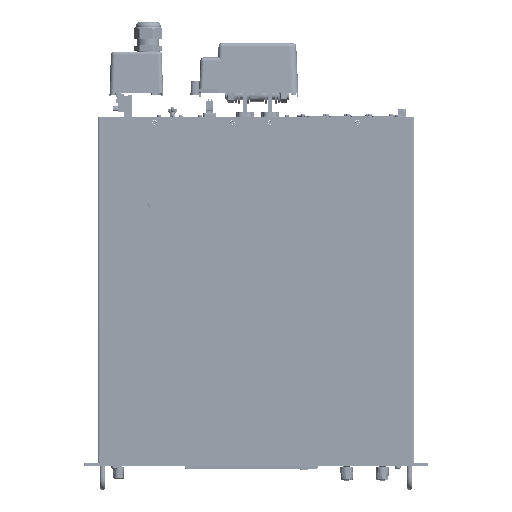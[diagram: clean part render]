
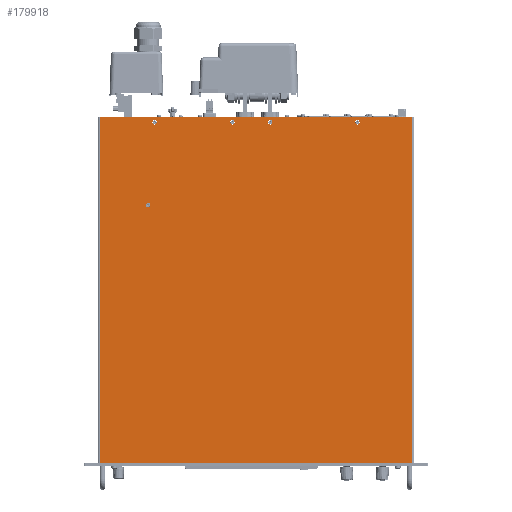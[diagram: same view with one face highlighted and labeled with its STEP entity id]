
A CAD part, top view. The second image highlights one B-rep face of the part: STEP entity #179918.
In plain terms, the highlighted planar face has unit normal (0, 0, 1).
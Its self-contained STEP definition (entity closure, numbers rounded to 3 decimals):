
#7609=FACE_BOUND('',#56152,.T.);
#7610=FACE_BOUND('',#56153,.T.);
#7611=FACE_BOUND('',#56154,.T.);
#7612=FACE_BOUND('',#56155,.T.);
#7613=FACE_BOUND('',#56156,.T.);
#9587=LINE('',#254500,#27041);
#9613=LINE('',#254619,#27067);
#13627=LINE('',#275898,#31081);
#13628=LINE('',#275901,#31082);
#13629=LINE('',#275903,#31083);
#13630=LINE('',#275904,#31084);
#13631=LINE('',#275906,#31085);
#13632=LINE('',#275907,#31086);
#27041=VECTOR('',#205294,10.);
#27067=VECTOR('',#205420,10.);
#31081=VECTOR('',#218786,10.);
#31082=VECTOR('',#218789,10.);
#31083=VECTOR('',#218790,10.);
#31084=VECTOR('',#218791,10.);
#31085=VECTOR('',#218792,10.);
#31086=VECTOR('',#218793,10.);
#46161=FACE_OUTER_BOUND('',#56151,.T.);
#56151=EDGE_LOOP('',(#128619,#128620,#128621,#128622,#128623,#128624,#128625,
#128626));
#56152=EDGE_LOOP('',(#128627));
#56153=EDGE_LOOP('',(#128628));
#56154=EDGE_LOOP('',(#128629));
#56155=EDGE_LOOP('',(#128630));
#56156=EDGE_LOOP('',(#128631));
#65434=CIRCLE('',#192176,3.1);
#65442=CIRCLE('',#192190,3.1);
#65443=CIRCLE('',#192191,3.1);
#65444=CIRCLE('',#192192,3.1);
#65445=CIRCLE('',#192193,3.1);
#70260=VERTEX_POINT('',#254497);
#70261=VERTEX_POINT('',#254499);
#70303=VERTEX_POINT('',#254616);
#70304=VERTEX_POINT('',#254618);
#74602=VERTEX_POINT('',#275874);
#74608=VERTEX_POINT('',#275896);
#74609=VERTEX_POINT('',#275900);
#74610=VERTEX_POINT('',#275902);
#74611=VERTEX_POINT('',#275905);
#74612=VERTEX_POINT('',#275908);
#74613=VERTEX_POINT('',#275910);
#74614=VERTEX_POINT('',#275912);
#74615=VERTEX_POINT('',#275914);
#87490=EDGE_CURVE('',#70261,#70260,#9587,.T.);
#87552=EDGE_CURVE('',#70304,#70303,#9613,.T.);
#94497=EDGE_CURVE('',#74602,#74602,#65434,.T.);
#94509=EDGE_CURVE('',#70303,#74608,#13627,.T.);
#94510=EDGE_CURVE('',#70260,#74609,#13628,.T.);
#94511=EDGE_CURVE('',#74610,#74609,#13629,.T.);
#94512=EDGE_CURVE('',#74610,#70304,#13630,.T.);
#94513=EDGE_CURVE('',#74611,#74608,#13631,.T.);
#94514=EDGE_CURVE('',#74611,#70261,#13632,.T.);
#94515=EDGE_CURVE('',#74612,#74612,#65442,.T.);
#94516=EDGE_CURVE('',#74613,#74613,#65443,.T.);
#94517=EDGE_CURVE('',#74614,#74614,#65444,.T.);
#94518=EDGE_CURVE('',#74615,#74615,#65445,.T.);
#128619=ORIENTED_EDGE('',*,*,#94510,.T.);
#128620=ORIENTED_EDGE('',*,*,#94511,.F.);
#128621=ORIENTED_EDGE('',*,*,#94512,.T.);
#128622=ORIENTED_EDGE('',*,*,#87552,.T.);
#128623=ORIENTED_EDGE('',*,*,#94509,.T.);
#128624=ORIENTED_EDGE('',*,*,#94513,.F.);
#128625=ORIENTED_EDGE('',*,*,#94514,.T.);
#128626=ORIENTED_EDGE('',*,*,#87490,.T.);
#128627=ORIENTED_EDGE('',*,*,#94497,.T.);
#128628=ORIENTED_EDGE('',*,*,#94515,.T.);
#128629=ORIENTED_EDGE('',*,*,#94516,.T.);
#128630=ORIENTED_EDGE('',*,*,#94517,.T.);
#128631=ORIENTED_EDGE('',*,*,#94518,.T.);
#163019=PLANE('',#192189);
#179918=ADVANCED_FACE('',(#46161,#7609,#7610,#7611,#7612,#7613),#163019,
 .T.);
#192176=AXIS2_PLACEMENT_3D('',#275875,#218756,#218757);
#192189=AXIS2_PLACEMENT_3D('',#275899,#218787,#218788);
#192190=AXIS2_PLACEMENT_3D('',#275909,#218794,#218795);
#192191=AXIS2_PLACEMENT_3D('',#275911,#218796,#218797);
#192192=AXIS2_PLACEMENT_3D('',#275913,#218798,#218799);
#192193=AXIS2_PLACEMENT_3D('',#275915,#218800,#218801);
#205294=DIRECTION('',(1.,0.,0.));
#205420=DIRECTION('',(1.,0.,0.));
#218756=DIRECTION('center_axis',(0.,0.,
-1.));
#218757=DIRECTION('ref_axis',(1.,0.,0.));
#218786=DIRECTION('',(0.,1.,0.));
#218787=DIRECTION('center_axis',(0.,0.,
1.));
#218788=DIRECTION('ref_axis',(1.,0.,0.));
#218789=DIRECTION('',(0.,-1.,0.));
#218790=DIRECTION('',(-1.,0.,0.));
#218791=DIRECTION('',(0.,1.,0.));
#218792=DIRECTION('',(1.,0.,0.));
#218793=DIRECTION('',(0.,-1.,0.));
#218794=DIRECTION('center_axis',(0.,0.,
-1.));
#218795=DIRECTION('ref_axis',(1.,0.,0.));
#218796=DIRECTION('center_axis',(0.,0.,
-1.));
#218797=DIRECTION('ref_axis',(1.,0.,0.));
#218798=DIRECTION('center_axis',(0.,0.,
-1.));
#218799=DIRECTION('ref_axis',(1.,0.,0.));
#218800=DIRECTION('center_axis',(0.,0.,
-1.));
#218801=DIRECTION('ref_axis',(1.,0.,0.));
#254497=CARTESIAN_POINT('',(-210.,20.,42.5));
#254499=CARTESIAN_POINT('',(-219.,20.,42.5));
#254500=CARTESIAN_POINT('',(-105.,20.,42.5));
#254616=CARTESIAN_POINT('',(219.,20.,42.5));
#254618=CARTESIAN_POINT('',(210.,20.,42.5));
#254619=CARTESIAN_POINT('',(110.75,20.,42.5));
#275874=CARTESIAN_POINT('',(-154.1,381.5,42.5));
#275875=CARTESIAN_POINT('Origin',(-151.,381.5,42.5));
#275896=CARTESIAN_POINT('',(219.,505.5,42.5));
#275898=CARTESIAN_POINT('',(219.,140.75,42.5));
#275899=CARTESIAN_POINT('Origin',(0.,261.5,
42.5));
#275900=CARTESIAN_POINT('',(-210.,18.,42.5));
#275901=CARTESIAN_POINT('',(-210.,139.75,42.5));
#275902=CARTESIAN_POINT('',(210.,18.,42.5));
#275903=CARTESIAN_POINT('',(221.5,18.,42.5));
#275904=CARTESIAN_POINT('',(210.,140.75,42.5));
#275905=CARTESIAN_POINT('',(-219.,505.5,42.5));
#275906=CARTESIAN_POINT('',(-221.5,505.5,42.5));
#275907=CARTESIAN_POINT('',(-219.,383.25,42.5));
#275908=CARTESIAN_POINT('',(-36.1,497.5,42.5));
#275909=CARTESIAN_POINT('Origin',(-33.,497.5,42.5));
#275910=CARTESIAN_POINT('',(138.9,497.5,42.5));
#275911=CARTESIAN_POINT('Origin',(142.,497.5,42.5));
#275912=CARTESIAN_POINT('',(16.9,497.5,42.5));
#275913=CARTESIAN_POINT('Origin',(20.,497.5,42.5));
#275914=CARTESIAN_POINT('',(-145.1,497.5,42.5));
#275915=CARTESIAN_POINT('Origin',(-142.,497.5,42.5));
